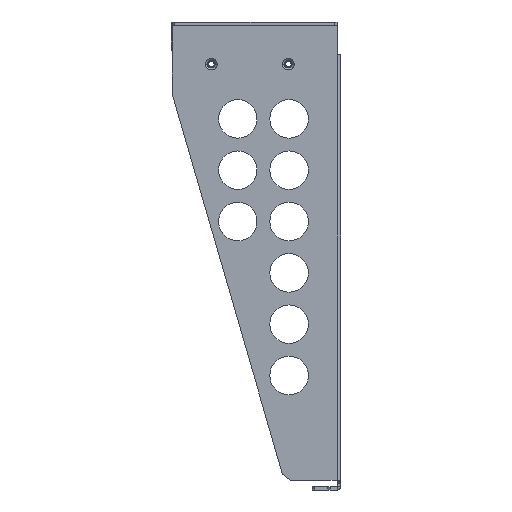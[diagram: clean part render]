
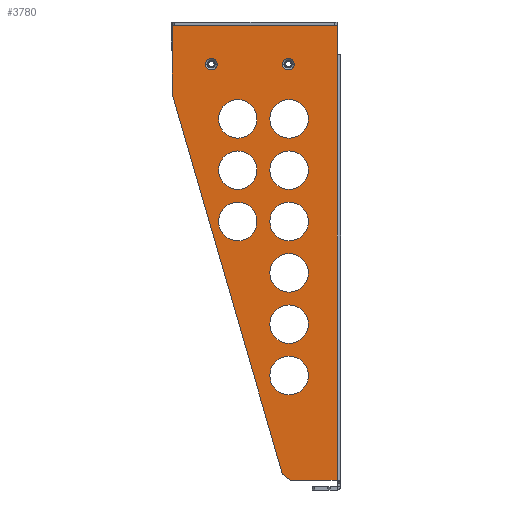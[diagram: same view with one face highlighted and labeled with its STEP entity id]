
A CAD part, left-side view. The second image highlights one B-rep face of the part: STEP entity #3780.
In plain terms, the highlighted planar face has unit normal (-1, 0, 0).
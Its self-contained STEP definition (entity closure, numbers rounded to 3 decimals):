
#693=DIRECTION('',(0.,0.,1.));
#694=VECTOR('',#693,331.7);
#695=CARTESIAN_POINT('',(-222.95,-41.1,-331.7));
#696=LINE('',#695,#694);
#705=CARTESIAN_POINT('',(-222.95,56.9,-7.3));
#706=DIRECTION('',(-1.,0.,0.));
#707=DIRECTION('',(0.,1.,0.));
#708=AXIS2_PLACEMENT_3D('',#705,#706,#707);
#710=CARTESIAN_POINT('',(-222.95,56.9,-7.3));
#711=DIRECTION('',(-1.,0.,0.));
#712=DIRECTION('',(0.,-1.,0.));
#713=AXIS2_PLACEMENT_3D('',#710,#711,#712);
#715=CARTESIAN_POINT('',(-222.95,-3.1,-7.3));
#716=DIRECTION('',(-1.,0.,0.));
#717=DIRECTION('',(0.,1.,0.));
#718=AXIS2_PLACEMENT_3D('',#715,#716,#717);
#720=CARTESIAN_POINT('',(-222.95,-3.1,-7.3));
#721=DIRECTION('',(-1.,0.,0.));
#722=DIRECTION('',(0.,-1.,0.));
#723=AXIS2_PLACEMENT_3D('',#720,#721,#722);
#725=CARTESIAN_POINT('',(-222.95,36.284,-50.));
#726=DIRECTION('',(1.,0.,0.));
#727=DIRECTION('',(0.,0.,1.));
#728=AXIS2_PLACEMENT_3D('',#725,#726,#727);
#730=CARTESIAN_POINT('',(-222.95,36.284,-50.));
#731=DIRECTION('',(1.,0.,0.));
#732=DIRECTION('',(0.,0.,-1.));
#733=AXIS2_PLACEMENT_3D('',#730,#731,#732);
#735=CARTESIAN_POINT('',(-222.95,-3.716,-50.));
#736=DIRECTION('',(1.,0.,0.));
#737=DIRECTION('',(0.,0.,1.));
#738=AXIS2_PLACEMENT_3D('',#735,#736,#737);
#740=CARTESIAN_POINT('',(-222.95,-3.716,-50.));
#741=DIRECTION('',(1.,0.,0.));
#742=DIRECTION('',(0.,0.,-1.));
#743=AXIS2_PLACEMENT_3D('',#740,#741,#742);
#745=CARTESIAN_POINT('',(-222.95,-3.716,-90.));
#746=DIRECTION('',(1.,0.,0.));
#747=DIRECTION('',(0.,0.,1.));
#748=AXIS2_PLACEMENT_3D('',#745,#746,#747);
#750=CARTESIAN_POINT('',(-222.95,-3.716,-90.));
#751=DIRECTION('',(1.,0.,0.));
#752=DIRECTION('',(0.,0.,-1.));
#753=AXIS2_PLACEMENT_3D('',#750,#751,#752);
#755=CARTESIAN_POINT('',(-222.95,-3.716,-130.));
#756=DIRECTION('',(1.,0.,0.));
#757=DIRECTION('',(0.,0.,1.));
#758=AXIS2_PLACEMENT_3D('',#755,#756,#757);
#760=CARTESIAN_POINT('',(-222.95,-3.716,-130.));
#761=DIRECTION('',(1.,0.,0.));
#762=DIRECTION('',(0.,0.,-1.));
#763=AXIS2_PLACEMENT_3D('',#760,#761,#762);
#765=CARTESIAN_POINT('',(-222.95,-3.716,-170.));
#766=DIRECTION('',(1.,0.,0.));
#767=DIRECTION('',(0.,0.,1.));
#768=AXIS2_PLACEMENT_3D('',#765,#766,#767);
#770=CARTESIAN_POINT('',(-222.95,-3.716,-170.));
#771=DIRECTION('',(1.,0.,0.));
#772=DIRECTION('',(0.,0.,-1.));
#773=AXIS2_PLACEMENT_3D('',#770,#771,#772);
#775=CARTESIAN_POINT('',(-222.95,-3.716,-210.));
#776=DIRECTION('',(1.,0.,0.));
#777=DIRECTION('',(0.,0.,1.));
#778=AXIS2_PLACEMENT_3D('',#775,#776,#777);
#780=CARTESIAN_POINT('',(-222.95,-3.716,-210.));
#781=DIRECTION('',(1.,0.,0.));
#782=DIRECTION('',(0.,0.,-1.));
#783=AXIS2_PLACEMENT_3D('',#780,#781,#782);
#785=CARTESIAN_POINT('',(-222.95,-3.716,-250.));
#786=DIRECTION('',(1.,0.,0.));
#787=DIRECTION('',(0.,0.,1.));
#788=AXIS2_PLACEMENT_3D('',#785,#786,#787);
#790=CARTESIAN_POINT('',(-222.95,-3.716,-250.));
#791=DIRECTION('',(1.,0.,0.));
#792=DIRECTION('',(0.,0.,-1.));
#793=AXIS2_PLACEMENT_3D('',#790,#791,#792);
#795=CARTESIAN_POINT('',(-222.95,36.284,-90.));
#796=DIRECTION('',(1.,0.,0.));
#797=DIRECTION('',(0.,0.,1.));
#798=AXIS2_PLACEMENT_3D('',#795,#796,#797);
#800=CARTESIAN_POINT('',(-222.95,36.284,-90.));
#801=DIRECTION('',(1.,0.,0.));
#802=DIRECTION('',(0.,0.,-1.));
#803=AXIS2_PLACEMENT_3D('',#800,#801,#802);
#805=CARTESIAN_POINT('',(-222.95,36.284,-130.));
#806=DIRECTION('',(1.,0.,0.));
#807=DIRECTION('',(0.,0.,1.));
#808=AXIS2_PLACEMENT_3D('',#805,#806,#807);
#810=CARTESIAN_POINT('',(-222.95,36.284,-130.));
#811=DIRECTION('',(1.,0.,0.));
#812=DIRECTION('',(0.,0.,-1.));
#813=AXIS2_PLACEMENT_3D('',#810,#811,#812);
#815=DIRECTION('',(0.,-1.,0.));
#816=VECTOR('',#815,36.1);
#817=CARTESIAN_POINT('',(-222.95,-5.,-331.7));
#818=LINE('',#817,#816);
#819=DIRECTION('',(0.,-0.8,-0.601));
#820=VECTOR('',#819,7.995);
#821=CARTESIAN_POINT('',(-222.95,1.393,-326.898));
#822=LINE('',#821,#820);
#823=DIRECTION('',(0.,0.279,0.96));
#824=VECTOR('',#823,309.132);
#825=CARTESIAN_POINT('',(-222.95,1.393,-326.898));
#826=LINE('',#825,#824);
#827=DIRECTION('',(0.,0.,-1.));
#828=VECTOR('',#827,22.8);
#829=CARTESIAN_POINT('',(-222.95,-41.1,22.8));
#830=LINE('',#829,#828);
#1131=DIRECTION('',(0.,0.,-1.));
#1132=VECTOR('',#1131,52.8);
#1133=CARTESIAN_POINT('',(-222.95,87.5,22.8));
#1134=LINE('',#1133,#1132);
#1162=DIRECTION('',(0.,1.,0.));
#1163=VECTOR('',#1162,128.6);
#1164=CARTESIAN_POINT('',(-222.95,-41.1,22.8));
#1165=LINE('',#1164,#1163);
#2208=CARTESIAN_POINT('',(-222.95,-41.1,-331.7));
#2210=VERTEX_POINT('',#2208);
#2229=CARTESIAN_POINT('',(-222.95,87.5,22.8));
#2231=VERTEX_POINT('',#2229);
#2269=CARTESIAN_POINT('',(-222.95,61.45,-7.3));
#2271=VERTEX_POINT('',#2269);
#2273=CARTESIAN_POINT('',(-222.95,52.35,-7.3));
#2275=VERTEX_POINT('',#2273);
#2277=CARTESIAN_POINT('',(-222.95,1.45,-7.3));
#2279=VERTEX_POINT('',#2277);
#2281=CARTESIAN_POINT('',(-222.95,-7.65,-7.3));
#2283=VERTEX_POINT('',#2281);
#2554=CARTESIAN_POINT('',(-222.95,87.5,-30.));
#2555=VERTEX_POINT('',#2554);
#2596=CARTESIAN_POINT('',(-222.95,36.284,-35.));
#2597=CARTESIAN_POINT('',(-222.95,36.284,-65.));
#2598=VERTEX_POINT('',#2596);
#2599=VERTEX_POINT('',#2597);
#2600=CARTESIAN_POINT('',(-222.95,-3.716,-35.));
#2601=CARTESIAN_POINT('',(-222.95,-3.716,-65.));
#2602=VERTEX_POINT('',#2600);
#2603=VERTEX_POINT('',#2601);
#2604=CARTESIAN_POINT('',(-222.95,-3.716,-75.));
#2605=CARTESIAN_POINT('',(-222.95,-3.716,-105.));
#2606=VERTEX_POINT('',#2604);
#2607=VERTEX_POINT('',#2605);
#2608=CARTESIAN_POINT('',(-222.95,-3.716,-115.));
#2609=CARTESIAN_POINT('',(-222.95,-3.716,-145.));
#2610=VERTEX_POINT('',#2608);
#2611=VERTEX_POINT('',#2609);
#2612=CARTESIAN_POINT('',(-222.95,-3.716,-155.));
#2613=CARTESIAN_POINT('',(-222.95,-3.716,-185.));
#2614=VERTEX_POINT('',#2612);
#2615=VERTEX_POINT('',#2613);
#2616=CARTESIAN_POINT('',(-222.95,-3.716,-195.));
#2617=CARTESIAN_POINT('',(-222.95,-3.716,-225.));
#2618=VERTEX_POINT('',#2616);
#2619=VERTEX_POINT('',#2617);
#2620=CARTESIAN_POINT('',(-222.95,-3.716,-235.));
#2621=CARTESIAN_POINT('',(-222.95,-3.716,-265.));
#2622=VERTEX_POINT('',#2620);
#2623=VERTEX_POINT('',#2621);
#2624=CARTESIAN_POINT('',(-222.95,36.284,-75.));
#2625=CARTESIAN_POINT('',(-222.95,36.284,-105.));
#2626=VERTEX_POINT('',#2624);
#2627=VERTEX_POINT('',#2625);
#2628=CARTESIAN_POINT('',(-222.95,36.284,-115.));
#2629=CARTESIAN_POINT('',(-222.95,36.284,-145.));
#2630=VERTEX_POINT('',#2628);
#2631=VERTEX_POINT('',#2629);
#2712=CARTESIAN_POINT('',(-222.95,1.393,-326.898));
#2713=CARTESIAN_POINT('',(-222.95,-5.,-331.7));
#2714=VERTEX_POINT('',#2712);
#2715=VERTEX_POINT('',#2713);
#2728=CARTESIAN_POINT('',(-222.95,-41.1,22.8));
#2729=CARTESIAN_POINT('',(-222.95,-41.1,0.));
#2730=VERTEX_POINT('',#2728);
#2731=VERTEX_POINT('',#2729);
#3695=CARTESIAN_POINT('',(-222.95,-43.8,-250.641));
#3696=DIRECTION('',(-1.,0.,0.));
#3697=DIRECTION('',(0.,0.,1.));
#3698=AXIS2_PLACEMENT_3D('',#3695,#3696,#3697);
#3699=PLANE('',#3698);
#3700=ORIENTED_EDGE('',*,*,#3660,.F.);
#3702=ORIENTED_EDGE('',*,*,#3701,.F.);
#3704=ORIENTED_EDGE('',*,*,#3703,.F.);
#3706=ORIENTED_EDGE('',*,*,#3705,.T.);
#3708=ORIENTED_EDGE('',*,*,#3707,.F.);
#3710=ORIENTED_EDGE('',*,*,#3709,.F.);
#3711=ORIENTED_EDGE('',*,*,#3685,.T.);
#3712=EDGE_LOOP('',(#3700,#3702,#3704,#3706,#3708,#3710,#3711));
#3713=FACE_OUTER_BOUND('',#3712,.F.);
#3715=ORIENTED_EDGE('',*,*,#3714,.T.);
#3717=ORIENTED_EDGE('',*,*,#3716,.T.);
#3718=EDGE_LOOP('',(#3715,#3717));
#3719=FACE_BOUND('',#3718,.F.);
#3721=ORIENTED_EDGE('',*,*,#3720,.F.);
#3723=ORIENTED_EDGE('',*,*,#3722,.F.);
#3724=EDGE_LOOP('',(#3721,#3723));
#3725=FACE_BOUND('',#3724,.F.);
#3727=ORIENTED_EDGE('',*,*,#3726,.F.);
#3729=ORIENTED_EDGE('',*,*,#3728,.F.);
#3730=EDGE_LOOP('',(#3727,#3729));
#3731=FACE_BOUND('',#3730,.F.);
#3733=ORIENTED_EDGE('',*,*,#3732,.F.);
#3735=ORIENTED_EDGE('',*,*,#3734,.F.);
#3736=EDGE_LOOP('',(#3733,#3735));
#3737=FACE_BOUND('',#3736,.F.);
#3739=ORIENTED_EDGE('',*,*,#3738,.F.);
#3741=ORIENTED_EDGE('',*,*,#3740,.F.);
#3742=EDGE_LOOP('',(#3739,#3741));
#3743=FACE_BOUND('',#3742,.F.);
#3745=ORIENTED_EDGE('',*,*,#3744,.F.);
#3747=ORIENTED_EDGE('',*,*,#3746,.F.);
#3748=EDGE_LOOP('',(#3745,#3747));
#3749=FACE_BOUND('',#3748,.F.);
#3751=ORIENTED_EDGE('',*,*,#3750,.F.);
#3753=ORIENTED_EDGE('',*,*,#3752,.F.);
#3754=EDGE_LOOP('',(#3751,#3753));
#3755=FACE_BOUND('',#3754,.F.);
#3757=ORIENTED_EDGE('',*,*,#3756,.F.);
#3759=ORIENTED_EDGE('',*,*,#3758,.F.);
#3760=EDGE_LOOP('',(#3757,#3759));
#3761=FACE_BOUND('',#3760,.F.);
#3763=ORIENTED_EDGE('',*,*,#3762,.F.);
#3765=ORIENTED_EDGE('',*,*,#3764,.F.);
#3766=EDGE_LOOP('',(#3763,#3765));
#3767=FACE_BOUND('',#3766,.F.);
#3769=ORIENTED_EDGE('',*,*,#3768,.F.);
#3771=ORIENTED_EDGE('',*,*,#3770,.F.);
#3772=EDGE_LOOP('',(#3769,#3771));
#3773=FACE_BOUND('',#3772,.F.);
#3775=ORIENTED_EDGE('',*,*,#3774,.T.);
#3777=ORIENTED_EDGE('',*,*,#3776,.T.);
#3778=EDGE_LOOP('',(#3775,#3777));
#3779=FACE_BOUND('',#3778,.F.);
#3780=ADVANCED_FACE('',(#3713,#3719,#3725,#3731,#3737,#3743,#3749,#3755,#3761,
#3767,#3773,#3779),#3699,.T.);
#709=CIRCLE('',#708,4.55);
#714=CIRCLE('',#713,4.55);
#719=CIRCLE('',#718,4.55);
#724=CIRCLE('',#723,4.55);
#729=CIRCLE('',#728,15.);
#734=CIRCLE('',#733,15.);
#739=CIRCLE('',#738,15.);
#744=CIRCLE('',#743,15.);
#749=CIRCLE('',#748,15.);
#754=CIRCLE('',#753,15.);
#759=CIRCLE('',#758,15.);
#764=CIRCLE('',#763,15.);
#769=CIRCLE('',#768,15.);
#774=CIRCLE('',#773,15.);
#779=CIRCLE('',#778,15.);
#784=CIRCLE('',#783,15.);
#789=CIRCLE('',#788,15.);
#794=CIRCLE('',#793,15.);
#799=CIRCLE('',#798,15.);
#804=CIRCLE('',#803,15.);
#809=CIRCLE('',#808,15.);
#814=CIRCLE('',#813,15.);
#3660=EDGE_CURVE('',#2210,#2731,#696,.T.);
#3685=EDGE_CURVE('',#2730,#2731,#830,.T.);
#3701=EDGE_CURVE('',#2715,#2210,#818,.T.);
#3703=EDGE_CURVE('',#2714,#2715,#822,.T.);
#3705=EDGE_CURVE('',#2714,#2555,#826,.T.);
#3707=EDGE_CURVE('',#2231,#2555,#1134,.T.);
#3709=EDGE_CURVE('',#2730,#2231,#1165,.T.);
#3714=EDGE_CURVE('',#2279,#2283,#719,.T.);
#3716=EDGE_CURVE('',#2283,#2279,#724,.T.);
#3720=EDGE_CURVE('',#2598,#2599,#729,.T.);
#3722=EDGE_CURVE('',#2599,#2598,#734,.T.);
#3726=EDGE_CURVE('',#2602,#2603,#739,.T.);
#3728=EDGE_CURVE('',#2603,#2602,#744,.T.);
#3732=EDGE_CURVE('',#2606,#2607,#749,.T.);
#3734=EDGE_CURVE('',#2607,#2606,#754,.T.);
#3738=EDGE_CURVE('',#2610,#2611,#759,.T.);
#3740=EDGE_CURVE('',#2611,#2610,#764,.T.);
#3744=EDGE_CURVE('',#2614,#2615,#769,.T.);
#3746=EDGE_CURVE('',#2615,#2614,#774,.T.);
#3750=EDGE_CURVE('',#2618,#2619,#779,.T.);
#3752=EDGE_CURVE('',#2619,#2618,#784,.T.);
#3756=EDGE_CURVE('',#2622,#2623,#789,.T.);
#3758=EDGE_CURVE('',#2623,#2622,#794,.T.);
#3762=EDGE_CURVE('',#2626,#2627,#799,.T.);
#3764=EDGE_CURVE('',#2627,#2626,#804,.T.);
#3768=EDGE_CURVE('',#2630,#2631,#809,.T.);
#3770=EDGE_CURVE('',#2631,#2630,#814,.T.);
#3774=EDGE_CURVE('',#2271,#2275,#709,.T.);
#3776=EDGE_CURVE('',#2275,#2271,#714,.T.);
